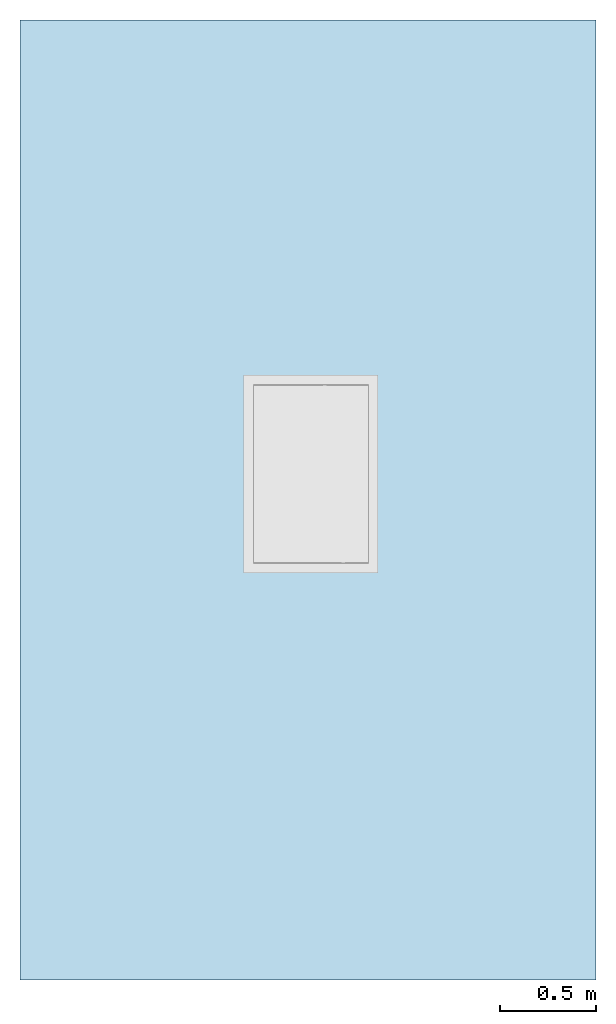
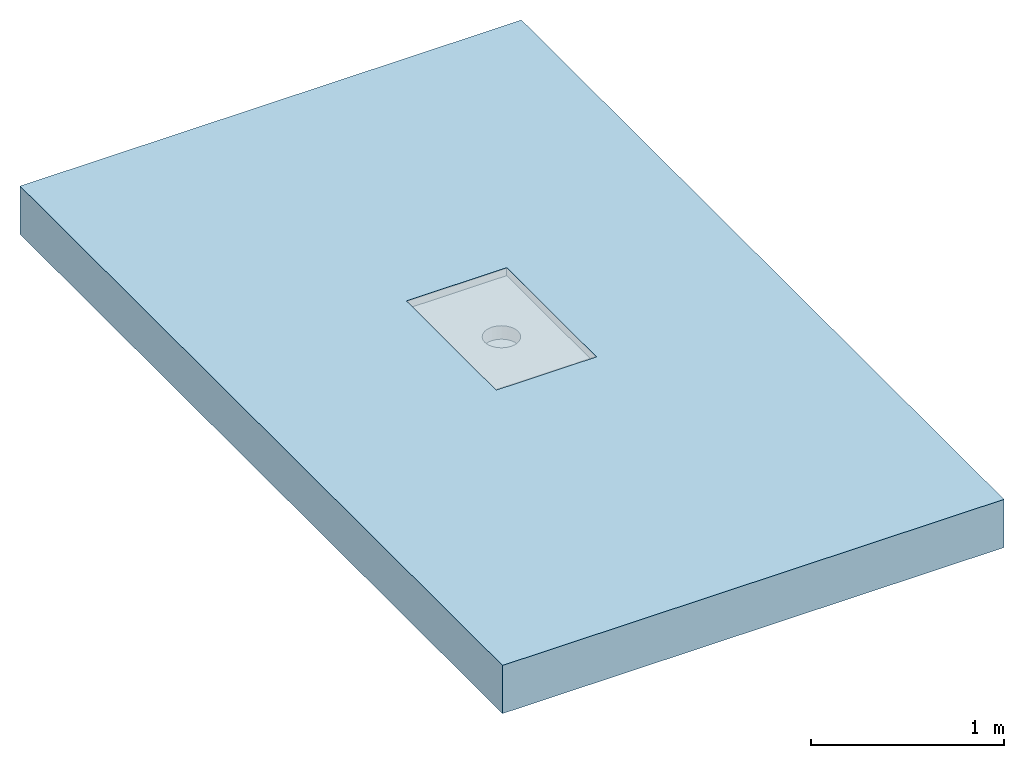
# One storey, incomplete: 1 slab, 1 opening.
"""IFC2X3 building model written with IfcOpenShell, lengths in millimetres."""

from ifc_helpers import new_model, entity, si_unit, converted_unit, derived_unit, direction, frame, frame_2d, origin, place, context, subcontext, project, spatial, rectangle, extrude, faceted_brep, material, layer, layer_set, layer_usage, element, save


model = new_model("IFC2X3")

# Units and contexts
model_context = context("Model", 3, precision=1e-05, world=origin(), true_north=direction((2.0, 6.12303176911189e-17, 1.0)))
context_of_model = context(None, 3, precision=1e-05, world=origin(), true_north=direction((2.0, 6.12303176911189e-17, 1.0)))
body_context = subcontext(model_context, "Body", "Model", "MODEL_VIEW")
ifc_project = project(units=[si_unit("LENGTHUNIT", "METRE", prefix="MILLI"), converted_unit("AREAUNIT", "SQUARE FOOT", entity("IfcRatioMeasure", 0.09290304), si_unit("AREAUNIT", "SQUARE_METRE"), dimensions=[2, 0, 0, 0, 0, 0, 0]), converted_unit("VOLUMEUNIT", "CUBIC FOOT", entity("IfcRatioMeasure", 0.028316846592), si_unit("VOLUMEUNIT", "CUBIC_METRE"), dimensions=[3, 0, 0, 0, 0, 0, 0]), converted_unit("PLANEANGLEUNIT", "DEGREE", entity("IfcRatioMeasure", 0.0174532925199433), si_unit("PLANEANGLEUNIT", "RADIAN"), dimensions=[0, 0, 0, 0, 0, 0, 0]), si_unit("MASSUNIT", "GRAM", prefix="KILO"), si_unit("TIMEUNIT", "SECOND"), si_unit("THERMODYNAMICTEMPERATUREUNIT", "KELVIN"), derived_unit("THERMALTRANSMITTANCEUNIT", [(si_unit("MASSUNIT", "GRAM", prefix="KILO"), 1), (si_unit("THERMODYNAMICTEMPERATUREUNIT", "KELVIN"), -1), (si_unit("TIMEUNIT", "SECOND"), -3)]), derived_unit("VOLUMETRICFLOWRATEUNIT", [(si_unit("LENGTHUNIT", "METRE"), 3), (si_unit("TIMEUNIT", "SECOND"), -1)]), si_unit("POWERUNIT", "WATT")], contexts=[model_context, context_of_model])

# Site, building, storey
site_placement = place(None, origin())
site = spatial("IfcSite", under=ifc_project, at=site_placement, Name="Default", CompositionType="ELEMENT")
building_placement = place(site_placement, origin())
building = spatial("IfcBuilding", under=site, at=building_placement, CompositionType="ELEMENT")
storey_placement = place(building_placement, origin())
storey = spatial("IfcBuildingStorey", under=building, at=storey_placement, Name="Level 1", CompositionType="ELEMENT", Elevation=0.0)

# Slab, opening
ifc_material = material(Name="Default Floor")
ifc_layer = layer(ifc_material, 304.8)
ifc_layer_set = layer_set([ifc_layer], Name="Floor:Generic - 12\"")
ifc_layer_usage = layer_usage(ifc_layer_set, "AXIS3", "POSITIVE", 0.0)
slab_placement = place(storey_placement, frame((-2592.42688678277, 381.838531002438, -304.8)))
slab = element("IfcSlab", 1, at=slab_placement, inside=storey, material=ifc_layer_usage, Name="Floor:Generic - 12\"", ObjectType="Floor:Generic - 12\"", PredefinedType="FLOOR", context=body_context, shape_type="SweptSolid", body=[
    extrude(rectangle(XDim=5000.0, YDim=3000.0, at=frame_2d((0.0, 0.0), x_axis=(0.0, -1.0))), frame((1500.0, 2500.0, 304.8), z_axis=(0.0, 0.0, -1.0), x_axis=(-1.0, 0.0, 0.0)), (0.0, 0.0, 1.0), 304.8),
])
opening_placement = place(slab_placement, frame((1215.04103423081, 2170.50252802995, 169.988825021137)))
element("IfcOpeningElement", 2, at=opening_placement, cuts=slab, ObjectType="Recess", context=body_context, shape_type="Brep", body=[
    faceted_brep([(600.0, 0.0, 84.8111749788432), (600.0, 0.0, 134.811174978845), (0.0, 0.0, 84.8111749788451), (0.0, 0.0, 134.811174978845), (0.0, 930.0, 84.8111749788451), (0.0, 930.0, 134.811174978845), (600.0, 930.0, 134.811174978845), (600.0, 930.0, 84.8111749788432), (249.966310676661, 378.397459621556, 84.8111749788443), (274.084406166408, 368.407417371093, 84.8111749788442), (229.255632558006, 394.289321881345, 84.8111749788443), (299.966310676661, 365.0, 84.8111749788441), (199.96631067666, 465.0, 84.8111749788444), (203.373728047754, 439.118095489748, 84.8111749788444), (213.363770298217, 415.0, 84.8111749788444), (325.848215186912, 368.407417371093, 84.811174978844), (349.966310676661, 378.397459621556, 84.811174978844), (370.676988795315, 394.289321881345, 84.8111749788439), (386.568851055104, 415.0, 84.8111749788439), (396.558893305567, 439.118095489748, 84.8111749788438), (399.96631067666, 465.0, 84.8111749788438), (213.363770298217, 515.0, 84.8111749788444), (203.373728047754, 490.881904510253, 84.8111749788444), (229.255632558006, 535.710678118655, 84.8111749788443), (249.966310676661, 551.602540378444, 84.8111749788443), (274.084406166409, 561.592582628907, 84.8111749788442), (299.966310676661, 565.0, 84.8111749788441), (396.558893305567, 490.881904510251, 84.8111749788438), (386.568851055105, 515.0, 84.8111749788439), (349.966310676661, 551.602540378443, 84.811174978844), (325.848215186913, 561.592582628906, 84.811174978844), (370.676988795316, 535.710678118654, 84.8111749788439), (274.084406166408, 368.407417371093, 0.0), (325.848215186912, 368.407417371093, 0.0), (299.96631067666, 365.0, 0.0), (325.848215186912, 561.592582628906, 0.0), (249.966310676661, 551.602540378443, 0.0), (249.96631067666, 378.397459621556, 0.0), (229.255632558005, 394.289321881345, 0.0), (229.255632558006, 535.710678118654, 0.0), (213.363770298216, 415.0, 0.0), (349.96631067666, 378.397459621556, 0.0), (386.568851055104, 415.0, 0.0), (370.676988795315, 394.289321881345, 0.0), (386.568851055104, 515.0, 0.0), (396.558893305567, 439.118095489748, 0.0), (396.558893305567, 490.881904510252, 0.0), (399.96631067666, 465.0, 0.0), (203.373728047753, 439.118095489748, 0.0), (203.373728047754, 490.881904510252, 0.0), (213.363770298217, 515.0, 0.0), (299.966310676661, 565.0, 0.0), (274.084406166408, 561.592582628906, 0.0), (349.96631067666, 551.602540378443, 0.0), (370.676988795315, 535.710678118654, 0.0), (199.96631067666, 465.0, 0.0)], [[[0, 1, 2]], [[3, 2, 1]], [[4, 5, 6]], [[6, 7, 4]], [[3, 1, 5]], [[6, 5, 1]], [[2, 3, 5]], [[5, 4, 2]], [[1, 0, 7]], [[7, 6, 1]], [[2, 8, 9]], [[8, 2, 10]], [[2, 9, 11]], [[12, 13, 2]], [[14, 10, 2]], [[13, 14, 2]], [[2, 4, 12]], [[0, 11, 15]], [[11, 0, 2]], [[0, 15, 16]], [[16, 17, 0]], [[18, 19, 0]], [[17, 18, 0]], [[0, 19, 20]], [[21, 22, 4]], [[23, 21, 4]], [[24, 4, 25]], [[4, 24, 23]], [[26, 25, 4]], [[4, 7, 26]], [[22, 12, 4]], [[27, 28, 7]], [[20, 27, 7]], [[29, 30, 7]], [[31, 7, 28]], [[7, 31, 29]], [[30, 26, 7]], [[20, 7, 0]], [[32, 33, 34]], [[32, 35, 33]], [[36, 32, 37]], [[38, 39, 37]], [[40, 39, 38]], [[41, 42, 43]], [[44, 42, 41]], [[42, 44, 45]], [[33, 35, 41]], [[45, 46, 47]], [[48, 49, 40]], [[50, 40, 49]], [[40, 50, 39]], [[36, 35, 32]], [[37, 39, 36]], [[51, 36, 52]], [[44, 53, 54]], [[46, 45, 44]], [[41, 53, 44]], [[53, 41, 35]], [[36, 51, 35]], [[49, 48, 55]], [[28, 44, 54]], [[29, 53, 35]], [[54, 53, 31]], [[30, 35, 51]], [[20, 46, 27]], [[46, 20, 47]], [[27, 46, 28]], [[46, 44, 28]], [[54, 31, 28]], [[29, 31, 53]], [[35, 30, 29]], [[51, 26, 30]], [[25, 52, 36]], [[39, 24, 36]], [[21, 50, 49]], [[39, 50, 23]], [[22, 49, 55]], [[52, 25, 26]], [[36, 24, 25]], [[39, 23, 24]], [[50, 21, 23]], [[22, 21, 49]], [[55, 12, 22]], [[52, 26, 51]], [[48, 13, 55]], [[40, 14, 48]], [[32, 34, 9]], [[38, 10, 40]], [[48, 14, 13]], [[13, 12, 55]], [[8, 37, 9]], [[8, 10, 38]], [[37, 32, 9]], [[10, 14, 40]], [[38, 37, 8]], [[34, 11, 9]], [[15, 33, 41]], [[43, 16, 41]], [[18, 42, 45]], [[43, 42, 17]], [[19, 45, 47]], [[33, 15, 11]], [[41, 16, 15]], [[43, 17, 16]], [[42, 18, 17]], [[19, 18, 45]], [[47, 20, 19]], [[33, 11, 34]]]),
])

save(model, "model.ifc")
